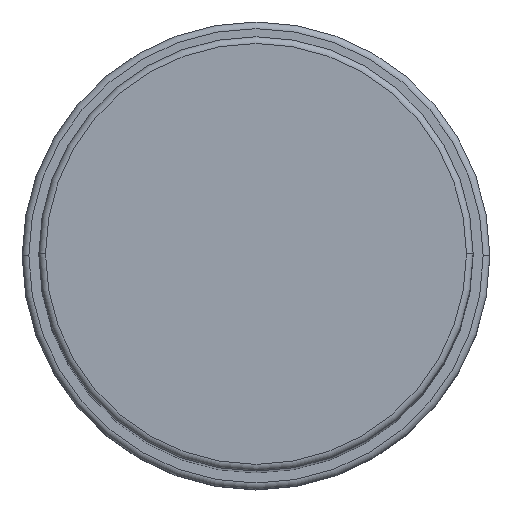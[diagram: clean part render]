
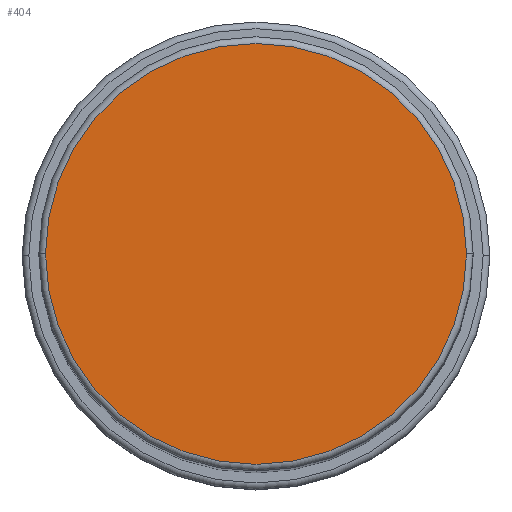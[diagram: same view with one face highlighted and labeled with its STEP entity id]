
A CAD part, top view. The second image highlights one B-rep face of the part: STEP entity #404.
In plain terms, the highlighted planar face has unit normal (0, 0, 1).
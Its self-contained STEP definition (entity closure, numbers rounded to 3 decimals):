
#19 = DIRECTION ( 'NONE',  ( 1., 0., 0. ) ) ;
#61 = PLANE ( 'NONE',  #702 ) ;
#87 = AXIS2_PLACEMENT_3D ( 'NONE', #1109, #1723, #19 ) ;
#180 = ORIENTED_EDGE ( 'NONE', *, *, #1596, .T. ) ;
#333 = DIRECTION ( 'NONE',  ( 1., 0., 0. ) ) ;
#404 = ADVANCED_FACE ( 'NONE', ( #1063 ), #61, .T. ) ;
#469 = DIRECTION ( 'NONE',  ( 0., 0., 1. ) ) ;
#536 = DIRECTION ( 'NONE',  ( 0., 0., 1. ) ) ;
#560 = ORIENTED_EDGE ( 'NONE', *, *, #1659, .T. ) ;
#623 = EDGE_LOOP ( 'NONE', ( #180, #560 ) ) ;
#702 = AXIS2_PLACEMENT_3D ( 'NONE', #1454, #536, #1616 ) ;
#849 = CIRCLE ( 'NONE', #1477, 31.5 ) ;
#973 = CIRCLE ( 'NONE', #87, 31.5 ) ;
#1003 = VERTEX_POINT ( 'NONE', #1852 ) ;
#1063 = FACE_OUTER_BOUND ( 'NONE', #623, .T. ) ;
#1109 = CARTESIAN_POINT ( 'NONE',  ( 0., 0., 178. ) ) ;
#1215 = VERTEX_POINT ( 'NONE', #1345 ) ;
#1345 = CARTESIAN_POINT ( 'NONE',  ( 31.5, 0., 178. ) ) ;
#1454 = CARTESIAN_POINT ( 'NONE',  ( 0., 0., 178. ) ) ;
#1477 = AXIS2_PLACEMENT_3D ( 'NONE', #1711, #469, #333 ) ;
#1596 = EDGE_CURVE ( 'NONE', #1215, #1003, #973, .T. ) ;
#1616 = DIRECTION ( 'NONE',  ( 1., 0., 0. ) ) ;
#1659 = EDGE_CURVE ( 'NONE', #1003, #1215, #849, .T. ) ;
#1711 = CARTESIAN_POINT ( 'NONE',  ( 0., 0., 178. ) ) ;
#1723 = DIRECTION ( 'NONE',  ( 0., 0., 1. ) ) ;
#1852 = CARTESIAN_POINT ( 'NONE',  ( -31.5, 0., 178. ) ) ;
